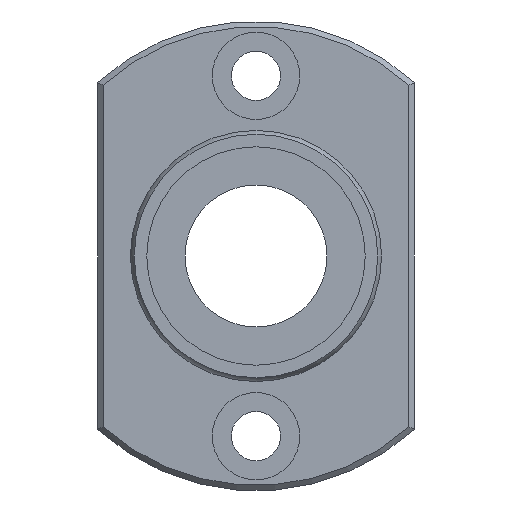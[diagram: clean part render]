
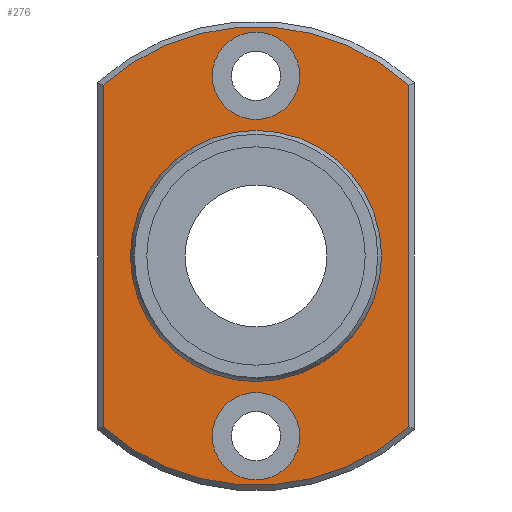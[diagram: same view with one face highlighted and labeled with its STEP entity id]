
A CAD part, left-side view. The second image highlights one B-rep face of the part: STEP entity #276.
In plain terms, the highlighted planar face has unit normal (-1, 0, 0).
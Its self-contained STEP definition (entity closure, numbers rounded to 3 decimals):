
#59=CARTESIAN_POINT('',(27.0,-14.,15.652));
#60=VERTEX_POINT('',#59);
#68=CARTESIAN_POINT('',(27.0,-14.,-15.652));
#69=VERTEX_POINT('',#68);
#70=CARTESIAN_POINT('',(27.0,-14.,15.652));
#71=DIRECTION('',(0.0,0.0,-1.0));
#72=VECTOR('',#71,31.305);
#73=LINE('',#70,#72);
#74=EDGE_CURVE('',#60,#69,#73,.T.);
#101=CARTESIAN_POINT('',(27.0,14.,-15.652));
#102=VERTEX_POINT('',#101);
#103=CARTESIAN_POINT('',(27.0,0.0,0.0));
#104=DIRECTION('',(1.0,0.0,0.0));
#105=DIRECTION('',(0.0,0.0,-1.0));
#106=AXIS2_PLACEMENT_3D('',#103,#104,#105);
#107=CIRCLE('',#106,21.);
#108=EDGE_CURVE('',#69,#102,#107,.T.);
#134=CARTESIAN_POINT('',(27.0,14.,15.652));
#135=VERTEX_POINT('',#134);
#136=CARTESIAN_POINT('',(27.0,14.,-15.652));
#137=DIRECTION('',(0.0,0.0,1.0));
#138=VECTOR('',#137,31.305);
#139=LINE('',#136,#138);
#140=EDGE_CURVE('',#102,#135,#139,.T.);
#165=CARTESIAN_POINT('',(27.0,0.0,0.0));
#166=DIRECTION('',(1.0,0.0,0.0));
#167=DIRECTION('',(0.0,0.0,1.0));
#168=AXIS2_PLACEMENT_3D('',#165,#166,#167);
#169=CIRCLE('',#168,21.);
#170=EDGE_CURVE('',#135,#60,#169,.T.);
#232=CARTESIAN_POINT('',(27.0,0.0,16.393));
#233=DIRECTION('',(-1.0,0.0,0.0));
#234=DIRECTION('',(0.0,0.0,1.0));
#235=AXIS2_PLACEMENT_3D('',#232,#233,#234);
#236=PLANE('',#235);
#237=ORIENTED_EDGE('',*,*,#74,.F.);
#238=ORIENTED_EDGE('',*,*,#170,.F.);
#239=ORIENTED_EDGE('',*,*,#140,.F.);
#240=ORIENTED_EDGE('',*,*,#108,.F.);
#241=EDGE_LOOP('',(#237,#238,#239,#240));
#242=FACE_OUTER_BOUND('',#241,.T.);
#243=CARTESIAN_POINT('',(27.0,0.0,11.286));
#244=VERTEX_POINT('',#243);
#245=CARTESIAN_POINT('',(27.0,0.0,0.0));
#246=DIRECTION('',(-1.0,0.0,0.0));
#247=DIRECTION('',(0.0,0.0,1.0));
#248=AXIS2_PLACEMENT_3D('',#245,#246,#247);
#249=CIRCLE('',#248,11.286);
#250=EDGE_CURVE('',#244,#244,#249,.T.);
#251=ORIENTED_EDGE('',*,*,#250,.F.);
#252=EDGE_LOOP('',(#251));
#253=FACE_BOUND('',#252,.T.);
#254=CARTESIAN_POINT('',(27.0,4.,-16.5));
#255=VERTEX_POINT('',#254);
#256=CARTESIAN_POINT('',(27.0,0.,-16.5));
#257=DIRECTION('',(1.0,0.0,0.0));
#258=DIRECTION('',(0.0,1.0,0.0));
#259=AXIS2_PLACEMENT_3D('',#256,#257,#258);
#260=CIRCLE('',#259,4.0);
#261=EDGE_CURVE('',#255,#255,#260,.T.);
#262=ORIENTED_EDGE('',*,*,#261,.T.);
#263=EDGE_LOOP('',(#262));
#264=FACE_BOUND('',#263,.T.);
#265=CARTESIAN_POINT('',(27.0,4.,16.5));
#266=VERTEX_POINT('',#265);
#267=CARTESIAN_POINT('',(27.0,0.,16.5));
#268=DIRECTION('',(1.0,0.0,0.0));
#269=DIRECTION('',(0.0,1.0,0.0));
#270=AXIS2_PLACEMENT_3D('',#267,#268,#269);
#271=CIRCLE('',#270,4.0);
#272=EDGE_CURVE('',#266,#266,#271,.T.);
#273=ORIENTED_EDGE('',*,*,#272,.T.);
#274=EDGE_LOOP('',(#273));
#275=FACE_BOUND('',#274,.T.);
#276=ADVANCED_FACE('',(#242,#253,#264,#275),#236,.T.);
